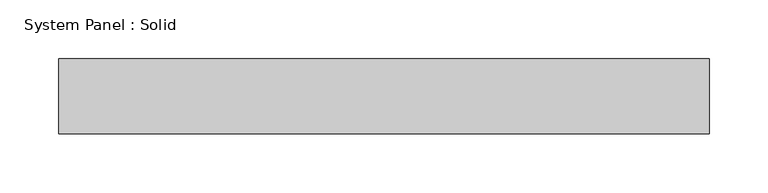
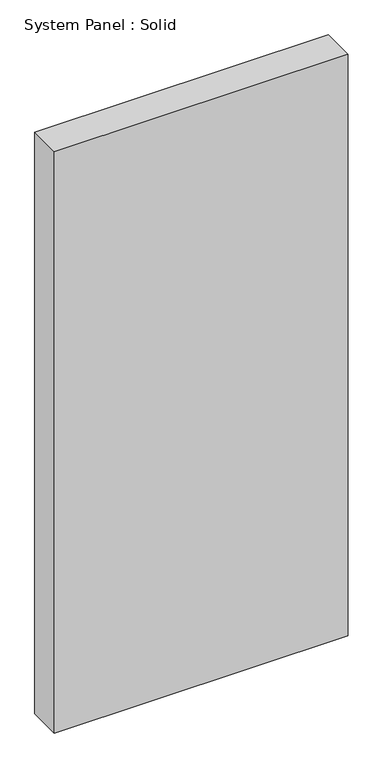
"""IFC4 building model written with IfcOpenShell, lengths in millimetres: plate geometry, System Panel : Solid."""

from ifc_helpers import new_model, si_unit, origin, origin_with_axes, place, context, project, spatial, polyline, outline, extrude, source, transform, mapped, element, save


def system_panel_solid_89b132cb(model_context):
    return source(origin(), model_context, "Body", "SweptSolid", [
        extrude(outline(polyline([(276.225, -44.45), (-276.225, -44.45), (-276.225, 19.05), (276.225, 19.05), (276.225, -44.45)])), origin_with_axes(), (0.0, 0.0, 1.0), 1155.7),
    ])


if __name__ == "__main__":
    model = new_model("IFC4")
    model_context = context("Model", 3, world=origin())
    ifc_project = project(units=[si_unit("LENGTHUNIT", "METRE", prefix="MILLI")], contexts=[model_context])
    site = spatial("IfcSite", under=ifc_project)
    building = spatial("IfcBuilding", under=site)
    placement = place(None, origin())
    system_panel_solid_shape = system_panel_solid_89b132cb(model_context)
    element("IfcPlate", 1, ObjectType="System Panel : Solid", at=placement, inside=building, context=model_context, shape_type="MappedRepresentation", body=[
        mapped(system_panel_solid_shape, transform((0.0, 0.0, 0.0), x_axis=(1.0, 0.0, 0.0), y_axis=(0.0, 1.0, 0.0), z_axis=(0.0, 0.0, 1.0))),
    ])
    save(model, "model.ifc")
